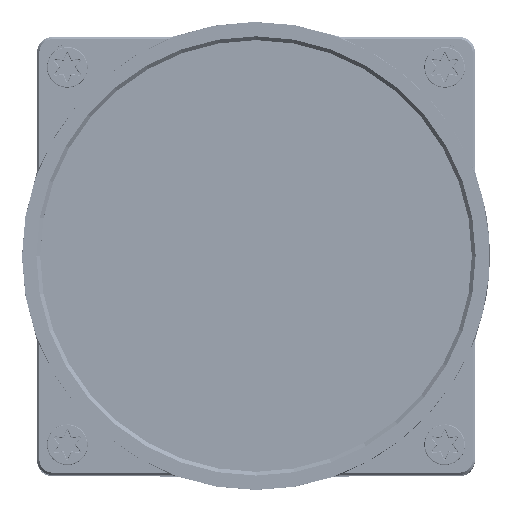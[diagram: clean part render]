
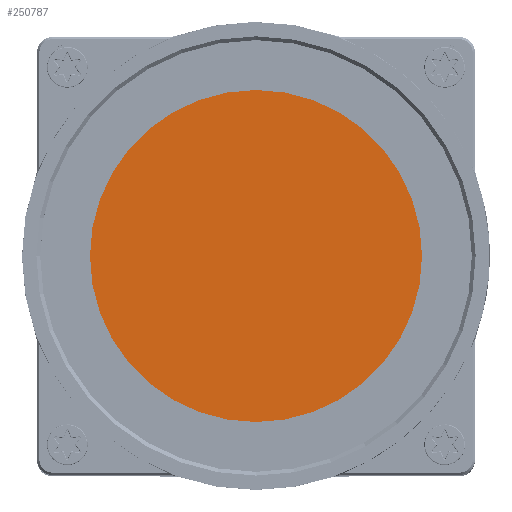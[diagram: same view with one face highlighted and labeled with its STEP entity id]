
A CAD part, top view. The second image highlights one B-rep face of the part: STEP entity #250787.
In plain terms, the highlighted planar face has unit normal (0, 0, 1).
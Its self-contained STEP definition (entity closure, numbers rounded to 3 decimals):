
#18512 = ORIENTED_EDGE ( 'NONE', *, *, #143884, .T. ) ;
#29725 = AXIS2_PLACEMENT_3D ( 'NONE', #88147, #185443, #165429 ) ;
#49274 = PLANE ( 'NONE',  #251973 ) ;
#67933 = EDGE_LOOP ( 'NONE', ( #18512 ) ) ;
#71868 = DIRECTION ( 'NONE',  ( 1., 0., 0. ) ) ;
#73765 = CARTESIAN_POINT ( 'NONE',  ( 22.8, 0., 1. ) ) ;
#88147 = CARTESIAN_POINT ( 'NONE',  ( 0., 0., 1. ) ) ;
#130405 = DIRECTION ( 'NONE',  ( 0., 0., 1. ) ) ;
#140263 = CIRCLE ( 'NONE', #29725, 22.8 ) ;
#143884 = EDGE_CURVE ( 'NONE', #260050, #260050, #140263, .T. ) ;
#165429 = DIRECTION ( 'NONE',  ( 1., 0., 0. ) ) ;
#172975 = FACE_OUTER_BOUND ( 'NONE', #67933, .T. ) ;
#185443 = DIRECTION ( 'NONE',  ( 0., 0., 1. ) ) ;
#210308 = CARTESIAN_POINT ( 'NONE',  ( 0., 0., 1. ) ) ;
#250787 = ADVANCED_FACE ( 'NONE', ( #172975 ), #49274, .T. ) ;
#251973 = AXIS2_PLACEMENT_3D ( 'NONE', #210308, #130405, #71868 ) ;
#260050 = VERTEX_POINT ( 'NONE', #73765 ) ;
